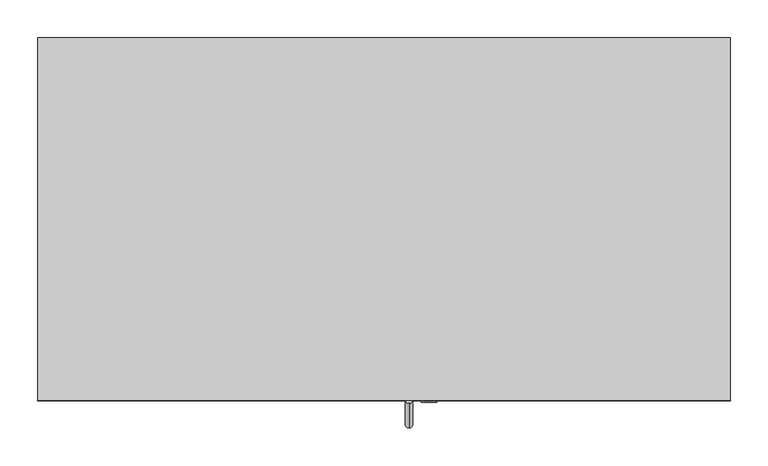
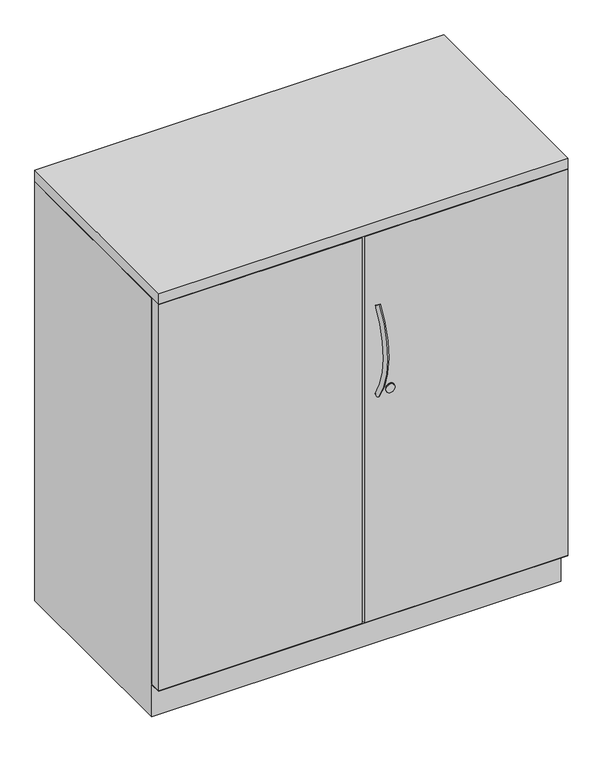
"""IFC4 building model written with IfcOpenShell, lengths in millimetres: furniture geometry, Steelcase - Universal Storage - Cabinet - Storage - 40H-52H - Proud Steel : 40H x 18D x 36W."""

from ifc_helpers import new_model, si_unit, point, frame, frame_2d, origin, place, context, project, spatial, polyline, circle_curve, ellipse_curve, trimmed, segment, composite_curve, outline, extrude, faceted_brep, source, transform, mapped, element, save
from ifc_brep_helpers import plane_surface, revolved_surface, advanced_brep


def furniture_b55ef63a(model_context):
    return source(origin(), model_context, "Body", "SolidModel", [
        extrude(outline(polyline([(914.4, 0.0), (914.4, -479.552), (0.0, -479.552), (0.0, 0.0), (914.4, 0.0)])), frame((0.0, 0.0, 990.6), z_axis=(0.0, 0.0, 1.0), x_axis=(1.0, 0.0, 0.0)), (0.0, 0.0, 1.0), 25.4),
        extrude(outline(polyline([(0.0, -479.552), (0.0, -454.1528418), (454.66, -454.1528418), (454.66, -479.552), (0.0, -479.552)])), frame((0.0, 0.0, 77.724), z_axis=(0.0, 0.0, 1.0), x_axis=(1.0, 0.0, 0.0)), (0.0, 0.0, 1.0), 911.352),
        extrude(outline(polyline([(914.4, -454.1528418), (914.4, -479.552), (459.74, -479.552), (459.74, -454.1528418), (914.4, -454.1528418)])), frame((0.0, 0.0, 77.724), z_axis=(0.0, 0.0, 1.0), x_axis=(1.0, 0.0, 0.0)), (0.0, 0.0, 1.0), 911.352),
        extrude(outline(composite_curve([segment(trimmed(circle_curve(frame_2d((612.902, 516.7418131)), 10.16), [point((612.902, 526.9018131))], [point((612.902, 506.5818131))], False, "CARTESIAN"), True, "CONTINUOUS"), segment(trimmed(circle_curve(frame_2d((612.902, 516.7418131)), 10.16), [point((612.902, 506.5818131))], [point((612.902, 526.9018131))], False, "CARTESIAN"), True, "CONTINUOUS")], self_intersect=False)), frame((0.0, -481.965031, 0.0), z_axis=(0.0, 1.0, 0.0), x_axis=(0.0, 0.0, 1.0)), (0.0, 0.0, 1.0), 2.413031),
        advanced_brep(
        [(490.2783765, -474.9744318, 814.9196018), (490.2783765, -483.5741633, 820.5900503), (490.2783765, -472.5471581, 607.1931915), (490.2783765, -481.0120418, 601.3233437)],
        [
            (0, 1, circle_curve(frame((490.2783765, -479.2742976, 817.7548261), z_axis=(0.0, 0.5504787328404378, 0.83484918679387), x_axis=(0.0, -0.83484918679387, 0.5504787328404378)), 5.1504701)),
            (1, 0, circle_curve(frame((490.2783765, -479.2742976, 817.7548261), z_axis=(0.0, 0.5504787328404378, 0.83484918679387), x_axis=(0.0, -0.83484918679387, 0.5504787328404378)), 5.1504701)),
            (2, 3, circle_curve(frame((490.2783765, -476.7796, 604.2582676), z_axis=(0.0, 0.5698361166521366, -0.8217583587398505), x_axis=(0.0, -0.8217583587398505, -0.5698361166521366)), 5.1504701)),
            (3, 2, circle_curve(frame((490.2783765, -476.7796, 604.2582676), z_axis=(0.0, 0.5698361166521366, -0.8217583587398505), x_axis=(0.0, -0.8217583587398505, -0.5698361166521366)), 5.1504701)),
            (3, 1, circle_curve(frame((490.2783765, -320.178461, 712.8509992), z_axis=(-1.0, 0.0, 0.0), x_axis=(0.0, -0.83484918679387, 0.5504787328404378)), 195.7188256)),
            (0, 2, circle_curve(frame((490.2783765, -320.178461, 712.8509992), z_axis=(1.0, 0.0, 0.0), x_axis=(0.0, -0.83484918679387, 0.5504787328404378)), 185.4178854)),
        ],
        [
            plane_surface(frame((490.2783765, -479.2742976, 817.7548261), z_axis=(0.0, 0.5504787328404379, 0.83484918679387), x_axis=(-1.0, 0.0, 0.0))),
            plane_surface(frame((490.2783765, -476.7796, 604.2582676), z_axis=(0.0, 0.5698361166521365, -0.8217583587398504), x_axis=(-1.0, 0.0, 0.0))),
            revolved_surface(trimmed(ellipse_curve(frame((490.2783765, -479.2742976, 817.7548261), z_axis=(0.0, 0.5504787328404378, 0.83484918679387), x_axis=(0.0, -0.83484918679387, 0.5504787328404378)), 5.1504701, 5.1504701), [point((490.2783765, -474.9744318, 814.9196018))], [point((490.2783765, -483.5741633, 820.5900503))], True, "CARTESIAN"), (490.2783765, -320.178461, 712.8509992), (1.0, 0.0, 0.0)),
            revolved_surface(trimmed(ellipse_curve(frame((490.2783765, -479.2742976, 817.7548261), z_axis=(0.0, 0.5504787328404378, 0.83484918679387), x_axis=(0.0, -0.83484918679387, 0.5504787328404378)), 5.1504701, 5.1504701), [point((490.2783765, -483.5741633, 820.5900503))], [point((490.2783765, -474.9744318, 814.9196018))], True, "CARTESIAN"), (490.2783765, -320.178461, 712.8509992), (1.0, 0.0, 0.0)),
        ],
        [
            (0, [[1, 2]]),
            (1, [[3, 4]]),
            (2, [[5, -1, 6, -4]]),
            (3, [[-6, -2, -5, -3]]),
        ],
    ),
        extrude(outline(composite_curve([segment(trimmed(circle_curve(frame_2d((614.5669832, 517.0109835)), 9.7167829), [point((614.5669832, 526.7277664))], [point((614.5669832, 507.2942006))], False, "CARTESIAN"), True, "CONTINUOUS"), segment(trimmed(circle_curve(frame_2d((614.5669832, 517.0109835)), 9.7167829), [point((614.5669832, 507.2942006))], [point((614.5669832, 526.7277664))], False, "CARTESIAN"), True, "CONTINUOUS")], self_intersect=False)), frame((0.0, -480.2215275, 0.0), z_axis=(0.0, 1.0, 0.0), x_axis=(0.0, 0.0, 1.0)), (0.0, 0.0, 1.0), 0.6695275),
        faceted_brep([(914.4, 0.0, 0.0), (914.4, -452.6288432, 0.0), (0.0, -452.6288432, 0.0), (0.0, 0.0, 0.0), (0.0, 0.0, 989.076), (914.4, 0.0, 989.076), (0.0, -452.6288432, 76.2), (0.0, -479.552, 76.2), (0.0, -479.552, 77.724), (0.0, -452.6288432, 77.724), (0.0, -452.6288432, 989.076), (914.4, -452.6288432, 76.2), (914.4, -452.6288432, 989.076), (914.4, -452.6288432, 77.724), (914.4, -479.4258418, 77.724), (914.4, -479.552, 76.2), (889.0000242, -25.4000008, 989.076), (889.0000242, -452.6288432, 989.076), (25.3999758, -452.6288432, 989.076), (25.3999758, -25.4000008, 989.076), (889.0000242, -25.4000008, 77.724), (889.0000242, -452.6288432, 77.724), (25.3999758, -452.6288432, 77.724), (25.3999758, -25.4000008, 77.724), (4.6981334, -454.1528418, 77.724), (889.0000242, -454.1528418, 77.724)], [[[0, 1, 2, 3]], [[0, 3, 4, 5]], [[4, 3, 2, 6, 7, 8, 9, 10]], [[2, 1, 11, 6]], [[1, 0, 5, 12, 13, 14, 15, 11]], [[16, 17, 12, 5, 4, 10, 18, 19]], [[17, 16, 20, 21]], [[12, 17, 21, 13]], [[18, 10, 9, 22]], [[19, 18, 22, 23]], [[16, 19, 23, 20]], [[8, 24, 25, 14, 13, 21, 20, 23, 22, 9]], [[15, 7, 6, 11]], [[24, 8, 7]], [[25, 24, 7, 15]], [[14, 25, 15]]]),
    ])


if __name__ == "__main__":
    model = new_model("IFC4")
    model_context = context("Model", 3, world=origin())
    ifc_project = project(units=[si_unit("LENGTHUNIT", "METRE", prefix="MILLI")], contexts=[model_context])
    site = spatial("IfcSite", under=ifc_project)
    building = spatial("IfcBuilding", under=site)
    placement = place(None, origin())
    furniture_shape = furniture_b55ef63a(model_context)
    element("IfcFurniture", 1, ObjectType="Steelcase - Universal Storage - Cabinet - Storage - 40H-52H - Proud Steel : 40H x 18D x 36W", at=placement, inside=building, context=model_context, shape_type="MappedRepresentation", body=[
        mapped(furniture_shape, transform((0.0, 0.0, 0.0), x_axis=(1.0, 0.0, 0.0), y_axis=(0.0, 1.0, 0.0), z_axis=(0.0, 0.0, 1.0))),
    ])
    save(model, "model.ifc")
